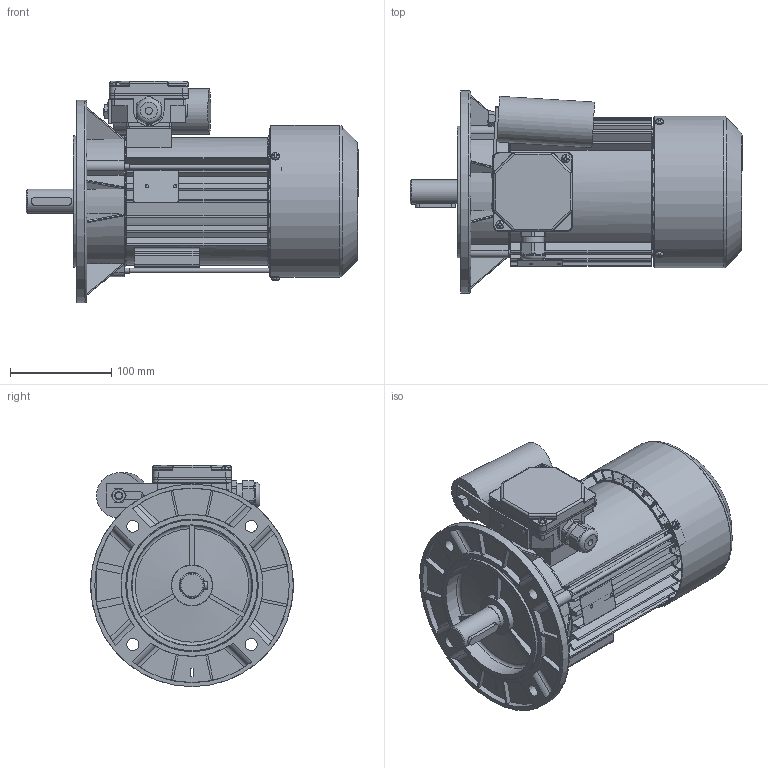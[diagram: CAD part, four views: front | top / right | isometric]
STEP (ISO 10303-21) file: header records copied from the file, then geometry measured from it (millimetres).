
FILE_DESCRIPTION( ( 'Unknown' ), '1' );
FILE_NAME( 'G:/Poczta Tk-1/STP/w.m.90/SEh90/SEKh90-.L.stp', 'Unknown', ( 'K. Szlosek' ), ( 'BESEL S.A.' ), 'PSStep 17.0.49', 'Unknown', ' ' );
FILE_SCHEMA( ( 'AUTOMOTIVE_DESIGN { 1 0 10303 214 1 1 1 1 }' ) );
Length unit declared in the file: millimetre
Products named in the file (37): skrznka zaciskowa jednofazowa ; K4-2820 Uszczelka nr 2 Sh71,80; K2-1131 Podstawa skrzynki zaciskowej jednofazowa; K4-2999 Uchwyt kondensatora; Nit 4x12 po skróceniu; nakrętka M8; K4-0898 Tulejka uszczelniająca; Dławnica M20x1,5; K2-0860 Pokrywka skrzynki zaciskowej; Assem1; K1-1257 Kadłub S(E,M)h80-C i D; K3-7810 wał S(E,M)h90-.L; K2-1715 Przewietrznik; Wpust A8x7x40; K3-2964 Osłona przewietrznika Sh80,90; K4-2320 Uszczelka nr 1 Sh71,80; K3-7771 Tarcza łożyskowa P S(E,M)h90-L tymczasowy; Wkręt samogwintujący M4x8; Nitokołek A 2x6; Łożysko 6205; Pierścień osadczy sprężyn. Z25; Tabliczka znamionowa 32x44; Śruba ściągająca E_M5x168; Kondensator zb 25-31,5uF Comar; Wkręt samogwintujący M4x12; K3-7772 Tarcza kołnierzowa 90 B5 Sh
Assembly tree (55 placements, depth 3):
  Assem1
    K1-1257 Kadłub S(E,M)h80-C i D
    K3-7810 wał S(E,M)h90-.L
    K2-1715 Przewietrznik
    Wpust A8x7x40
    K3-2964 Osłona przewietrznika Sh80,90
    K4-2320 Uszczelka nr 1 Sh71,80
    K3-7771 Tarcza łożyskowa P S(E,M)h90-L tymczasowy
    Wkręt samogwintujący M4x8  x3
    Nitokołek A 2x6  x2
    Łożysko 6205  x2
    Łożysko 6205  x2
    Łożysko 6205  x2
    Łożysko 6205  x2
    Łożysko 6205  x2
    Łożysko 6205  x2
    Łożysko 6205  x2
    Łożysko 6205  x2
    Łożysko 6205  x2
    Łożysko 6205  x2
    Łożysko 6205  x2
    Łożysko 6205  x2
    Pierścień osadczy sprężyn. Z25
    Tabliczka znamionowa 32x44
    Śruba ściągająca E_M5x168  x3
    Kondensator zb 25-31,5uF Comar
    Wkręt samogwintujący M4x12  x2
    K3-7772 Tarcza kołnierzowa 90 B5 Sh
    skrznka zaciskowa jednofazowa 
      K4-2820 Uszczelka nr 2 Sh71,80
      K2-1131 Podstawa skrzynki zaciskowej jednofazowa
      K4-2999 Uchwyt kondensatora
      Nit 4x12 po skróceniu  x2
      nakrętka M8
      K4-0898 Tulejka uszczelniająca
      Dławnica M20x1,5
      K2-0860 Pokrywka skrzynki zaciskowej
Bounding box: 327.8 x 200 x 218.5 mm (x, y, z)
Volume: 1228217.8 mm3; surface area: 671953.7 mm2
Topology: 54 solids, 74 shells, 2593 faces, 7213 edges, 4710 vertices
Faces by surface type: plane 1328, cylinder 811, cone 157, torus 150, bspline 101, sphere 46
Full cylindrical faces by diameter (mm): 2 x4, 2.4 x2, 3 x1, 3.7 x11, 4 x8, 4.134 x3, 4.3 x2, 4.5 x3, 4.6 x3, 4.8 x4, 5 x7, 5.5 x3, 6 x2, 6.5 x1, 6.647 x1, 7 x1, 8 x10, 10 x2, 12 x4, 18.376 x1, 18.38 x1, 19.3 x1, 19.5 x1, 19.9 x1, 20 x1, 22.3 x1, 23.9 x1, 24 x1, 25 x5, 25.4 x2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
Entity records: 123373 total; most frequent: CARTESIAN_POINT 48257, ORIENTED_EDGE 12870, DIRECTION 12397, EDGE_CURVE 6435, AXIS2_PLACEMENT_3D 4573, VERTEX_POINT 4357, LINE 3251, VECTOR 3251
